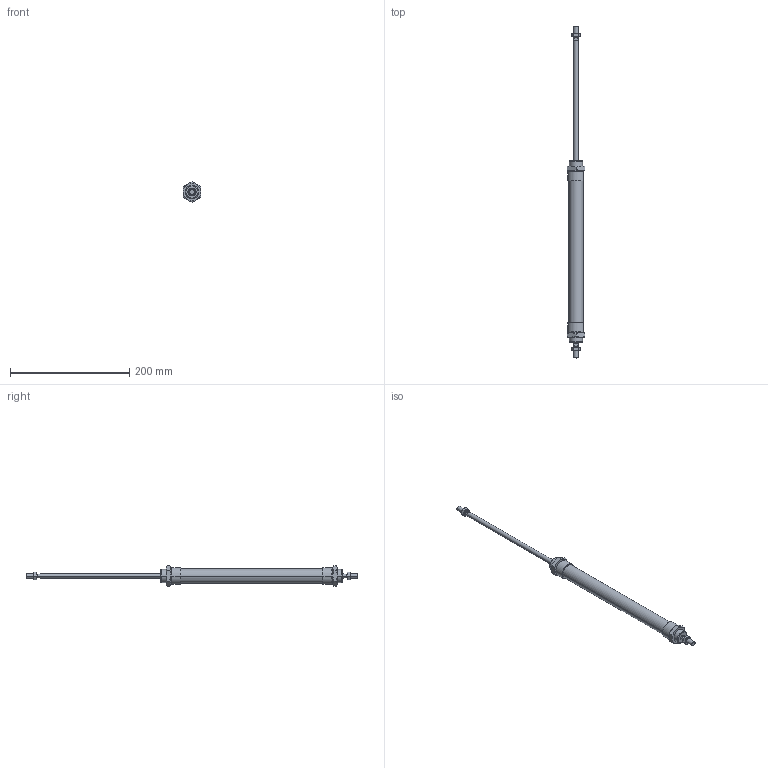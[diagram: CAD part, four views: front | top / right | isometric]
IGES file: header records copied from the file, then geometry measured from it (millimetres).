
Global section: file name: No Iges File Name specified; native system: AutoDesk Inventor R6.0; preprocessor: AutoDesk Inventor Iges Exporter R6.0; author: No Author specified; organization: No Organization specified; date: 20030403.072340; units: millimetre
Bounding box: 30 x 556 x 34.64 mm (x, y, z)
Volume: 157950.4 mm3; surface area: 51343.4 mm2
Topology: 6 solids, 6 shells, 186 faces, 414 edges, 244 vertices
Faces by surface type: cone 68, plane 60, bspline 32, cylinder 20, revolution 6
